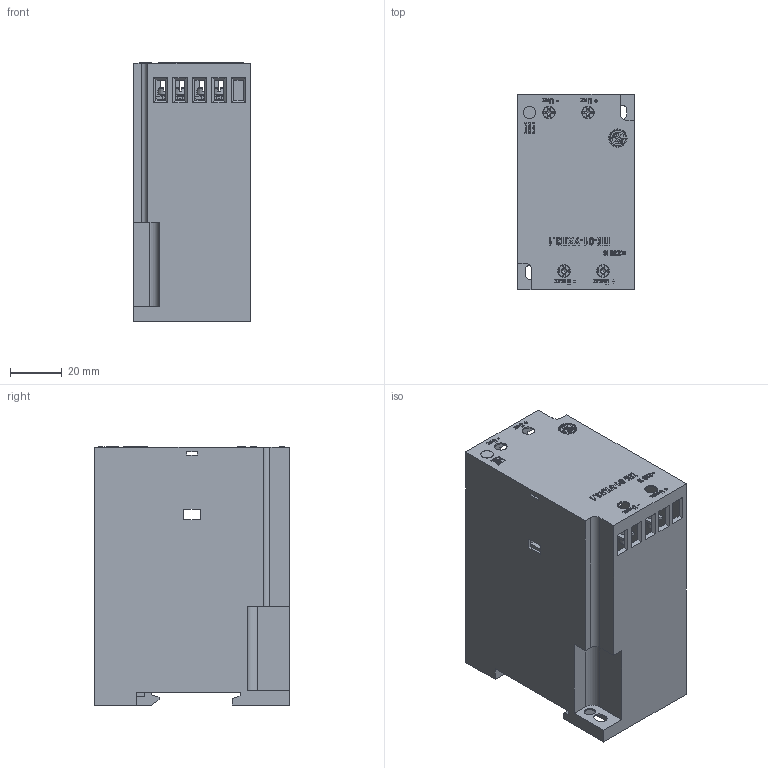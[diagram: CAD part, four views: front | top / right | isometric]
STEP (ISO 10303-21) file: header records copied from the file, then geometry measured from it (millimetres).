
FILE_DESCRIPTION(('STEP AP214'), '1');
FILE_NAME('Ïðèñòàâêà ÏÊ (3D çàêàç÷èêàì)', '', ('UNSPECIFIED'), ('UNSPECIFIED'), 'ASCON STEP Converter 1.6', 'ASCON Math Kernel', '');
FILE_SCHEMA(('AUTOMOTIVE_DESIGN { 1 0 10303 214 3 1 1}'));
Length unit declared in the file: millimetre
Bounding box: 45 x 75 x 99.3 mm (x, y, z)
Volume: 30304.4 mm3; surface area: 60400.5 mm2
Topology: 9 solids, 9 shells, 1821 faces, 4942 edges, 3214 vertices
Faces by surface type: plane 936, cylinder 758, cone 64, bspline 43, torus 20
Full cylindrical faces by diameter (mm): 2.3 x4, 3 x4, 4.2 x2, 4.8 x5
Entity records: 78720 total; most frequent: CARTESIAN_POINT 17529, ORIENTED_EDGE 9824, DIRECTION 9694, EDGE_CURVE 4912, AXIS2_PLACEMENT_3D 3337, VERTEX_POINT 3214, LINE 3020, VECTOR 3020
